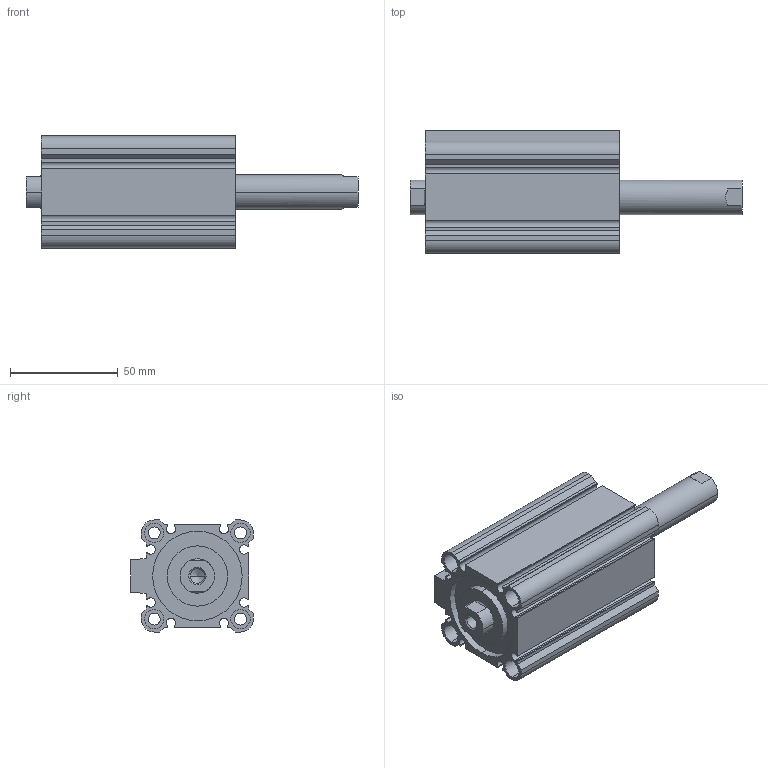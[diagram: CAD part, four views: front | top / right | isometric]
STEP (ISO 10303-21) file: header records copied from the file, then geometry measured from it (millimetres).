
FILE_DESCRIPTION (( 'STEP AP203' ), '1' );
FILE_NAME ('CCMB40-50F-P.STEP', '2020-08-05T11:25:21', ( '' ), ( '' ), 'SwSTEP 2.0', 'SolidWorks 2019', '' );
FILE_SCHEMA (( 'CONFIG_CONTROL_DESIGN' ));
Length unit declared in the file: millimetre
Products named in the file (1): CCMB40-50F-P
Bounding box: 154 x 57 x 52 mm (x, y, z)
Volume: 156708.5 mm3; surface area: 62512.9 mm2
Topology: 2 solids, 2 shells, 164 faces, 414 edges, 270 vertices
Faces by surface type: plane 78, cylinder 74, cone 12
Entity records: 5029 total; most frequent: DIRECTION 896, CARTESIAN_POINT 857, ORIENTED_EDGE 820, EDGE_CURVE 410, AXIS2_PLACEMENT_3D 325, VERTEX_POINT 270, VECTOR 246, LINE 246
